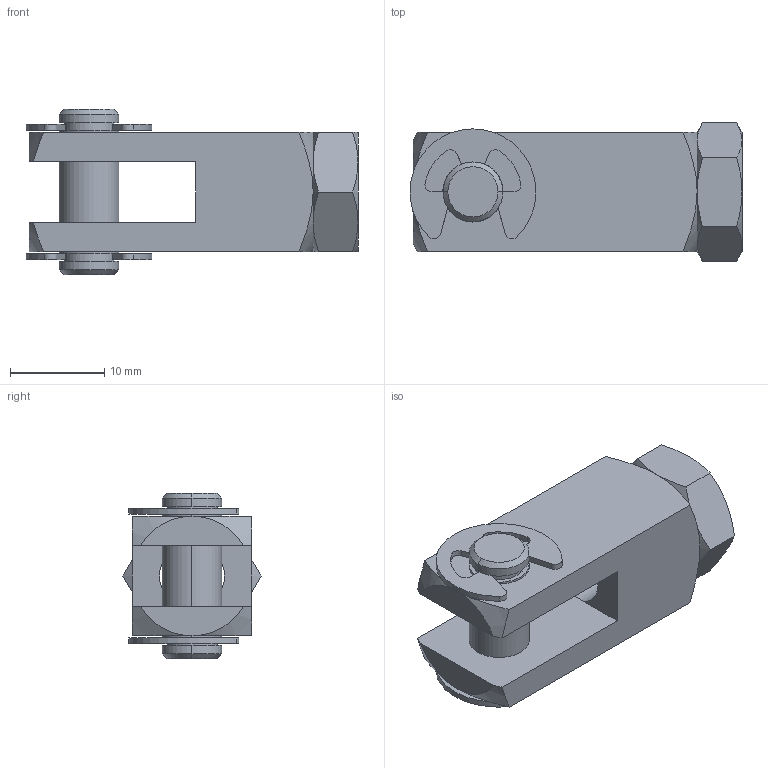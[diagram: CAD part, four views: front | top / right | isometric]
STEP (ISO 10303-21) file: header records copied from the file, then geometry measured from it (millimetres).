
FILE_DESCRIPTION((''),'2;1');
FILE_NAME('M127004_ASM','2018-02-01T',('MeFernandez'),('ASCO Numatics'),'PRO/ENGINEER BY PARAMETRIC TECHNOLOGY CORPORATION, 2015030','PRO/ENGINEER BY PARAMETRIC TECHNOLOGY CORPORATION, 2015030','');
FILE_SCHEMA(('CONFIG_CONTROL_DESIGN'));
Length unit declared in the file: inch
Products named in the file (3): M127004_CLEVIS-PIN; M18-004; M127004_ASM
Assembly tree (2 placements, depth 2):
  M127004_ASM
    M127004_CLEVIS-PIN
    M18-004
Bounding box: 35.26 x 14.66 x 17.58 mm (x, y, z)
Volume: 3819.5 mm3; surface area: 3479.1 mm2
Topology: 3 solids, 3 shells, 113 faces, 290 edges, 176 vertices
Faces by surface type: plane 47, cylinder 36, cone 30
Entity records: 3730 total; most frequent: CARTESIAN_POINT 868, DIRECTION 604, ORIENTED_EDGE 580, EDGE_CURVE 290, AXIS2_PLACEMENT_3D 240, VERTEX_POINT 176, VECTOR 124, LINE 124
